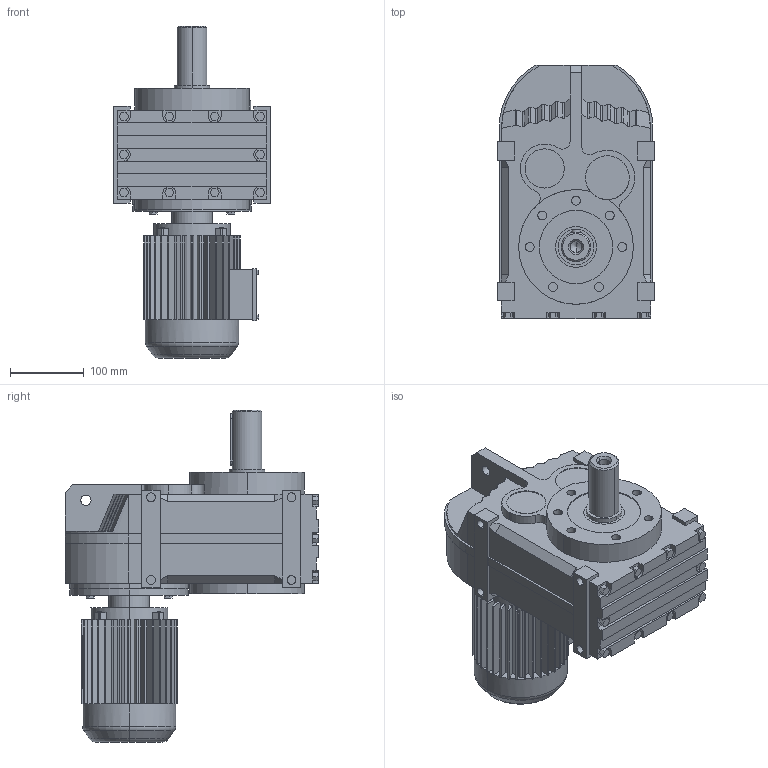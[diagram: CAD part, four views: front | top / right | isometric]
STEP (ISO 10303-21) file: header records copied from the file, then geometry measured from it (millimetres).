
FILE_DESCRIPTION(('Open CASCADE Model'),'2;1');
FILE_NAME('Open CASCADE Shape Model','2021-07-15T14:51:17',('Author'),( 'Open CASCADE'),'Open CASCADE STEP processor 6.3','Open CASCADE 6.3' ,'Unknown');
FILE_SCHEMA(('AUTOMOTIVE_DESIGN_CC2 { 1 2 10303 214 -1 1 5 4 }'));
Length unit declared in the file: millimetre
Products named in the file (4): 1_F67-Y63S; FA27‵157_67.step; 萇儂_160_Y63S.step; す瑩妗陑粣F_67.step
Assembly tree (3 placements, depth 2):
  1_F67-Y63S
    FA27‵157_67.step
    萇儂_160_Y63S.step
    す瑩妗陑粣F_67.step
Bounding box: 212 x 343 x 449 mm (x, y, z)
Volume: 10996402.6 mm3; surface area: 620706.3 mm2
Topology: 3 solids, 3 shells, 789 faces, 2080 edges, 1350 vertices
Faces by surface type: plane 565, cylinder 196, bspline 16, cone 8, torus 4
Entity records: 53023 total; most frequent: CARTESIAN_POINT 13132, DIRECTION 6977, ORIENTED_EDGE 4156, PCURVE 4156, DEFINITIONAL_REPRESENTATION 4156, LINE 3939, VECTOR 3939, EDGE_CURVE 2078
